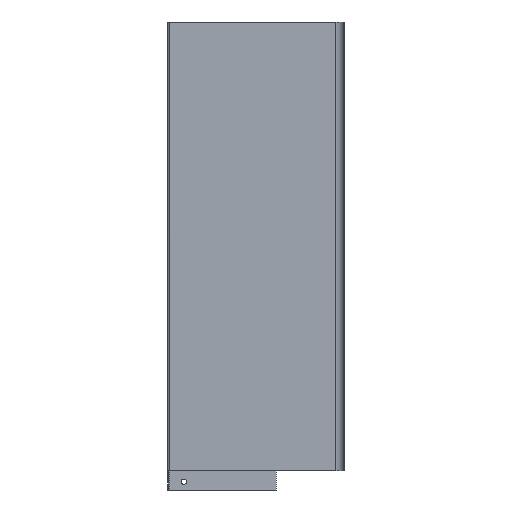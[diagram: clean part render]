
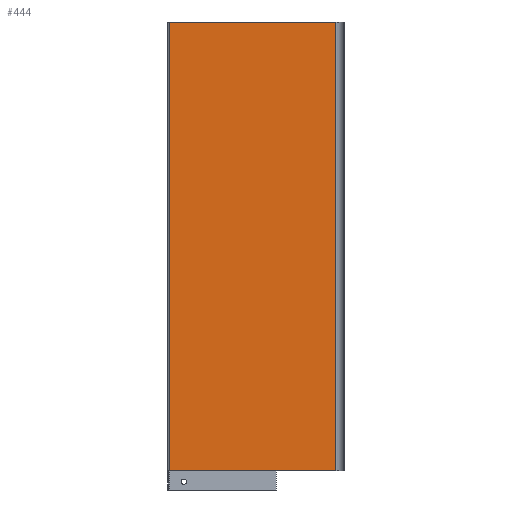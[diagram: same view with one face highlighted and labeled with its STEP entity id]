
A CAD part, left-side view. The second image highlights one B-rep face of the part: STEP entity #444.
In plain terms, the highlighted planar face has unit normal (-1, 0, 0).
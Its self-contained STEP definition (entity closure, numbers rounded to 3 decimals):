
#34 = ORIENTED_EDGE ( 'NONE', *, *, #508, .T. ) ;
#59 = VERTEX_POINT ( 'NONE', #376 ) ;
#73 = DIRECTION ( 'NONE',  ( 0., -1., 0. ) ) ;
#88 = VERTEX_POINT ( 'NONE', #847 ) ;
#140 = DIRECTION ( 'NONE',  ( 1., 0., 0. ) ) ;
#147 = LINE ( 'NONE', #365, #876 ) ;
#156 = CARTESIAN_POINT ( 'NONE',  ( -8., -144.438, -429. ) ) ;
#184 = EDGE_CURVE ( 'NONE', #217, #59, #147, .T. ) ;
#217 = VERTEX_POINT ( 'NONE', #156 ) ;
#255 = CARTESIAN_POINT ( 'NONE',  ( -8., -144.438, 0. ) ) ;
#282 = VECTOR ( 'NONE', #519, 1000. ) ;
#286 = EDGE_CURVE ( 'NONE', #59, #410, #617, .T. ) ;
#346 = CARTESIAN_POINT ( 'NONE',  ( -8., -144.438, -599.403 ) ) ;
#362 = CARTESIAN_POINT ( 'NONE',  ( -8., 14.6, -599.403 ) ) ;
#365 = CARTESIAN_POINT ( 'NONE',  ( -8., -144.438, -599.403 ) ) ;
#376 = CARTESIAN_POINT ( 'NONE',  ( -8., -144.438, 0. ) ) ;
#404 = FACE_OUTER_BOUND ( 'NONE', #625, .T. ) ;
#409 = PLANE ( 'NONE',  #838 ) ;
#410 = VERTEX_POINT ( 'NONE', #824 ) ;
#444 = ADVANCED_FACE ( 'NONE', ( #404 ), #409, .F. ) ;
#452 = ORIENTED_EDGE ( 'NONE', *, *, #649, .F. ) ;
#468 = CARTESIAN_POINT ( 'NONE',  ( -8., -144.438, -429. ) ) ;
#508 = EDGE_CURVE ( 'NONE', #88, #217, #543, .T. ) ;
#519 = DIRECTION ( 'NONE',  ( 0., 1., 0. ) ) ;
#543 = LINE ( 'NONE', #468, #743 ) ;
#601 = LINE ( 'NONE', #362, #711 ) ;
#609 = DIRECTION ( 'NONE',  ( 0., 1., 0. ) ) ;
#617 = LINE ( 'NONE', #255, #282 ) ;
#625 = EDGE_LOOP ( 'NONE', ( #34, #632, #776, #452 ) ) ;
#632 = ORIENTED_EDGE ( 'NONE', *, *, #184, .T. ) ;
#649 = EDGE_CURVE ( 'NONE', #88, #410, #601, .T. ) ;
#711 = VECTOR ( 'NONE', #765, 1000. ) ;
#743 = VECTOR ( 'NONE', #73, 1000. ) ;
#765 = DIRECTION ( 'NONE',  ( 0., 0., 1. ) ) ;
#776 = ORIENTED_EDGE ( 'NONE', *, *, #286, .T. ) ;
#824 = CARTESIAN_POINT ( 'NONE',  ( -8., 14.6, 0. ) ) ;
#837 = DIRECTION ( 'NONE',  ( 0., 0., 1. ) ) ;
#838 = AXIS2_PLACEMENT_3D ( 'NONE', #346, #140, #609 ) ;
#847 = CARTESIAN_POINT ( 'NONE',  ( -8., 14.6, -429. ) ) ;
#876 = VECTOR ( 'NONE', #837, 1000. ) ;
